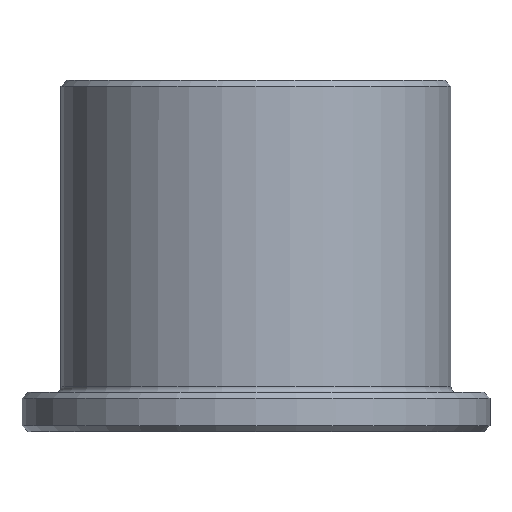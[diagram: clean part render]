
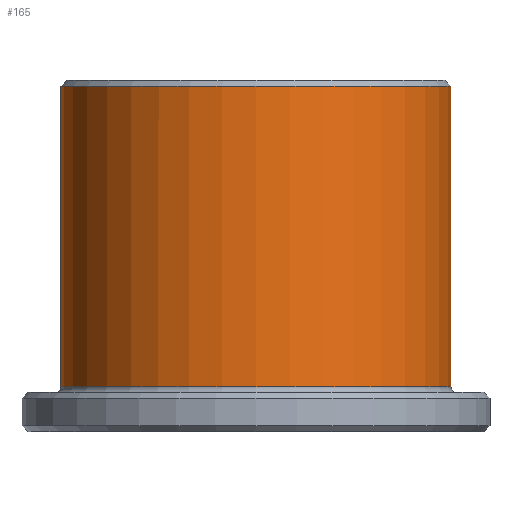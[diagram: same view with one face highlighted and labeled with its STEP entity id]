
A CAD part, front view. The second image highlights one B-rep face of the part: STEP entity #165.
In plain terms, the highlighted cylindrical face has radius 10 mm (diameter 20 mm), a partial arc.
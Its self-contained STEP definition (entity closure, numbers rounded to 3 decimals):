
#10 = EDGE_CURVE ( 'NONE', #367, #514, #171, .T. ) ;
#13 = DIRECTION ( 'NONE',  ( 0., 0., -1. ) ) ;
#39 = ORIENTED_EDGE ( 'NONE', *, *, #533, .T. ) ;
#55 = CARTESIAN_POINT ( 'NONE',  ( -10., 0., -15.7 ) ) ;
#90 = CIRCLE ( 'NONE', #559, 10. ) ;
#102 = CARTESIAN_POINT ( 'NONE',  ( -10., 0., -0.3 ) ) ;
#116 = CARTESIAN_POINT ( 'NONE',  ( 0., 0., 0. ) ) ;
#119 = CARTESIAN_POINT ( 'NONE',  ( -10., 0., 0. ) ) ;
#134 = DIRECTION ( 'NONE',  ( 1., 0., 0. ) ) ;
#144 = DIRECTION ( 'NONE',  ( 0., 0., 1. ) ) ;
#150 = ORIENTED_EDGE ( 'NONE', *, *, #10, .F. ) ;
#161 = DIRECTION ( 'NONE',  ( 0., 0., 1. ) ) ;
#165 = ADVANCED_FACE ( 'NONE', ( #469 ), #437, .T. ) ;
#171 = LINE ( 'NONE', #119, #532 ) ;
#180 = AXIS2_PLACEMENT_3D ( 'NONE', #517, #260, #382 ) ;
#195 = DIRECTION ( 'NONE',  ( 1., 0., 0. ) ) ;
#246 = ORIENTED_EDGE ( 'NONE', *, *, #344, .T. ) ;
#260 = DIRECTION ( 'NONE',  ( 0., 0., 1. ) ) ;
#271 = EDGE_CURVE ( 'NONE', #441, #273, #534, .T. ) ;
#273 = VERTEX_POINT ( 'NONE', #414 ) ;
#312 = VECTOR ( 'NONE', #144, 1000. ) ;
#326 = AXIS2_PLACEMENT_3D ( 'NONE', #116, #499, #195 ) ;
#329 = EDGE_LOOP ( 'NONE', ( #150, #246, #565, #39 ) ) ;
#344 = EDGE_CURVE ( 'NONE', #367, #441, #419, .T. ) ;
#367 = VERTEX_POINT ( 'NONE', #55 ) ;
#382 = DIRECTION ( 'NONE',  ( 1., 0., 0. ) ) ;
#389 = CARTESIAN_POINT ( 'NONE',  ( 10., 0., 0. ) ) ;
#395 = CARTESIAN_POINT ( 'NONE',  ( 0., 0., -0.3 ) ) ;
#414 = CARTESIAN_POINT ( 'NONE',  ( 10., 0., -0.3 ) ) ;
#419 = CIRCLE ( 'NONE', #180, 10. ) ;
#437 = CYLINDRICAL_SURFACE ( 'NONE', #326, 10. ) ;
#441 = VERTEX_POINT ( 'NONE', #472 ) ;
#469 = FACE_OUTER_BOUND ( 'NONE', #329, .T. ) ;
#472 = CARTESIAN_POINT ( 'NONE',  ( 10., 0., -15.7 ) ) ;
#499 = DIRECTION ( 'NONE',  ( 0., 0., 1. ) ) ;
#514 = VERTEX_POINT ( 'NONE', #102 ) ;
#517 = CARTESIAN_POINT ( 'NONE',  ( 0., 0., -15.7 ) ) ;
#532 = VECTOR ( 'NONE', #161, 1000. ) ;
#533 = EDGE_CURVE ( 'NONE', #273, #514, #90, .T. ) ;
#534 = LINE ( 'NONE', #389, #312 ) ;
#559 = AXIS2_PLACEMENT_3D ( 'NONE', #395, #13, #134 ) ;
#565 = ORIENTED_EDGE ( 'NONE', *, *, #271, .T. ) ;
